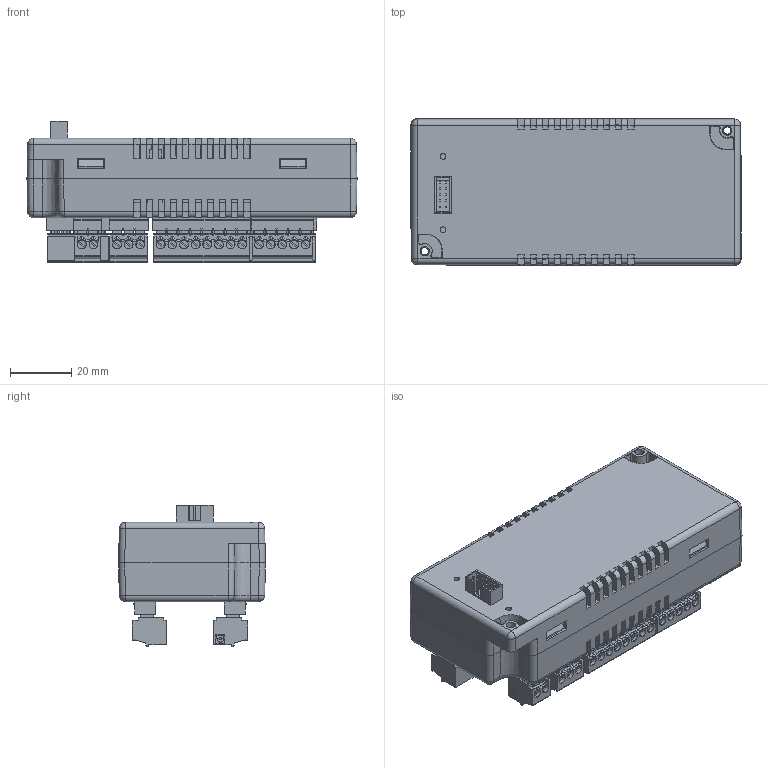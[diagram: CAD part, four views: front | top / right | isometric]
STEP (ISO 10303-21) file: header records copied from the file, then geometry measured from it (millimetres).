
FILE_DESCRIPTION(/* description */ (''),/* implementation_level */ '2;1');
FILE_NAME(/* name */ 'FPEM-1210RP-0201L.stp',/* time_stamp */ '2017-09-14T17:14:16+06:00',/* author */ (''),/* organization */ (''),/* preprocessor_version */ 'ST-DEVELOPER v11',/* originating_system */ 'SIEMENS PLM Software NX 7.5',/* authorisation */ '');
FILE_SCHEMA (('CONFIG_CONTROL_DESIGN'));
Products named in the file (1): MohaF8D49oob
Bounding box: 108 x 48 x 46.2 mm (x, y, z)
Volume: 142152.3 mm3; surface area: 44605.8 mm2
Topology: 7 solids, 24 shells, 5713 faces, 15062 edges, 9718 vertices
Faces by surface type: plane 3877, cylinder 1293, cone 230, torus 218, sphere 82, bspline 13
Full cylindrical faces by diameter (mm): 1.9 x2, 2.4 x2, 3 x2
Entity records: 189641 total; most frequent: CARTESIAN_POINT 47369, ORIENTED_EDGE 29976, DIRECTION 28923, EDGE_CURVE 14988, LINE 10779, VECTOR 10779, VERTEX_POINT 9732, AXIS2_PLACEMENT_3D 9072
